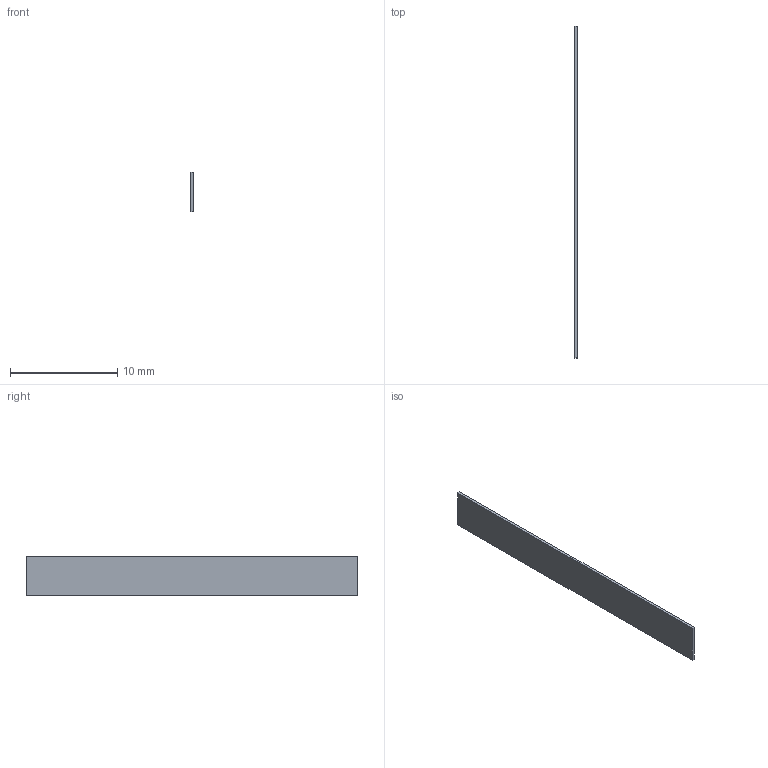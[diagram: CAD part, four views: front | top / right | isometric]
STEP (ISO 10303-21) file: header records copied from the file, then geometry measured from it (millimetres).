
FILE_DESCRIPTION(('Open CASCADE Model'),'2;1');
FILE_NAME('C27_UC1_Battery_Side_Liner_-1','2026-09-09T20:28:18',( 'Author'),('Open CASCADE'),'Open CASCADE STEP processor 7.9', 'build123d','Unknown');
FILE_SCHEMA(('AUTOMOTIVE_DESIGN { 1 0 10303 214 1 1 1 1 }'));
Length unit declared in the file: millimetre
Products named in the file (1): C27_UC1_Battery_Side_Liner_-1
Bounding box: 0.26 x 31 x 3.65 mm (x, y, z)
Volume: 29.4 mm3; surface area: 244.3 mm2
Topology: 1 solids, 1 shells, 6 faces, 12 edges, 8 vertices
Faces by surface type: plane 6
Entity records: 322 total; most frequent: CARTESIAN_POINT 51, DIRECTION 50, LINE 36, VECTOR 36, ORIENTED_EDGE 24, PCURVE 24, DEFINITIONAL_REPRESENTATION 24, EDGE_CURVE 12
